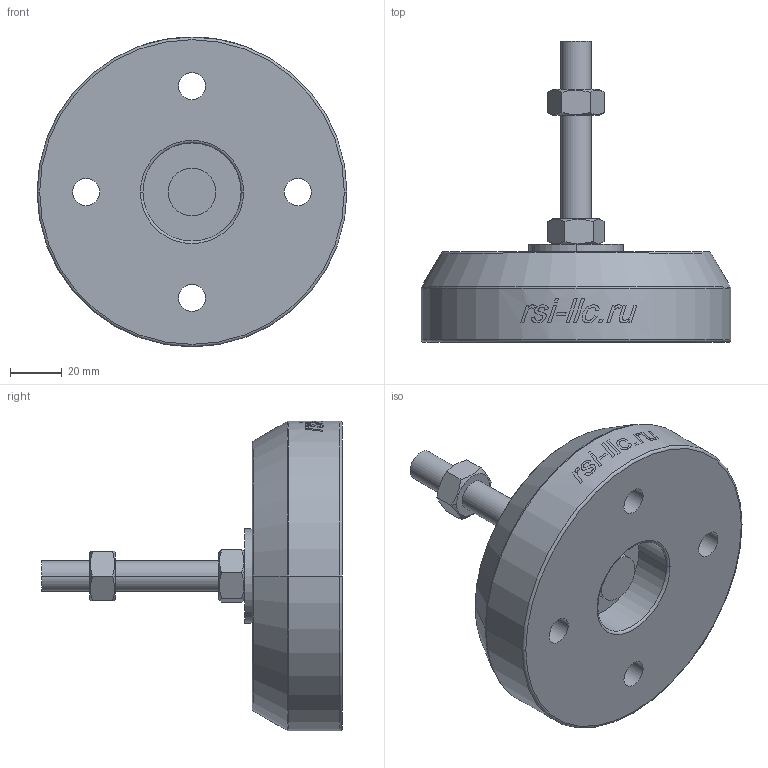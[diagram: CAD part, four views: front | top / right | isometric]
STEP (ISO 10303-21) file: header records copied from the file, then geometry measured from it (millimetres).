
FILE_DESCRIPTION (( 'STEP AP214' ), '1' );
FILE_NAME ('D120Ê-M12H100-À2-ÍÅÐÆ Îáëåã÷åííàÿ.STEP', '2022-12-26T10:34:16', ( '' ), ( '' ), 'SwSTEP 2.0', 'SolidWorks 2020', '' );
FILE_SCHEMA (( 'AUTOMOTIVE_DESIGN' ));
Length unit declared in the file: millimetre
Products named in the file (5): ﾘ琺矜; Ãàéêà M12-6H ÃÎÑÒ 5927-70; Îïîðû èç êàïðîëîíà 120 ìì; D120Ê-M12H100-À2-ÍÅÐÆ Îáëåã÷åííàÿ; Øïèëüêà_Ž¡«¥£ç¥­­ ï
Assembly tree (5 placements, depth 2):
  D120Ê-M12H100-À2-ÍÅÐÆ Îáëåã÷åííàÿ
    Îïîðû èç êàïðîëîíà 120 ìì
    ﾘ琺矜
    Øïèëüêà_Ž¡«¥£ç¥­­ ï
    Ãàéêà M12-6H ÃÎÑÒ 5927-70  x2
Bounding box: 120 x 116.5 x 120.01 mm (x, y, z)
Volume: 363056.6 mm3; surface area: 49240.6 mm2
Topology: 5 solids, 5 shells, 162 faces, 399 edges, 260 vertices
Faces by surface type: bspline 74, cylinder 37, plane 33, cone 10, torus 8
Entity records: 14385 total; most frequent: CARTESIAN_POINT 10275, ORIENTED_EDGE 734, EDGE_CURVE 367, DIRECTION 340, B_SPLINE_CURVE_WITH_KNOTS 261, VERTEX_POINT 240, EDGE_LOOP 175, AXIS2_PLACEMENT_3D 152
